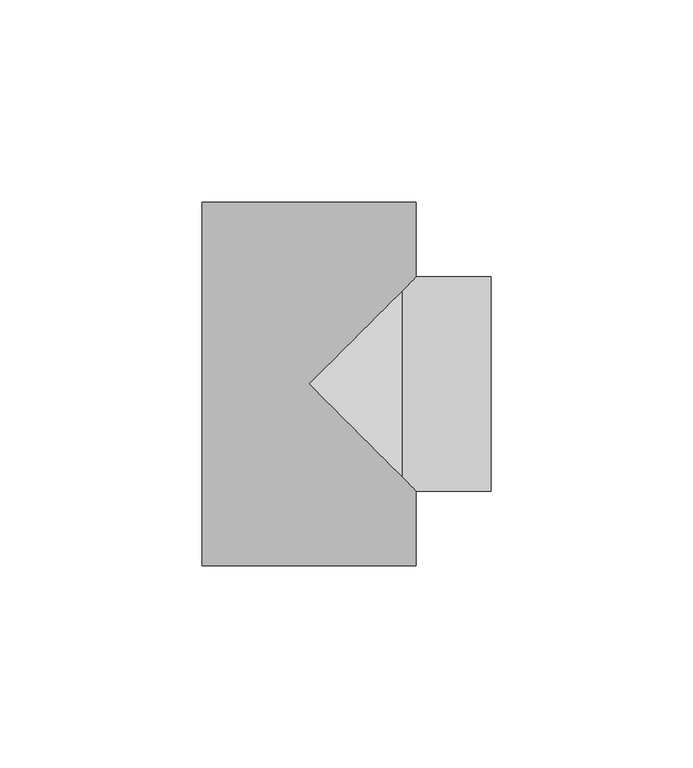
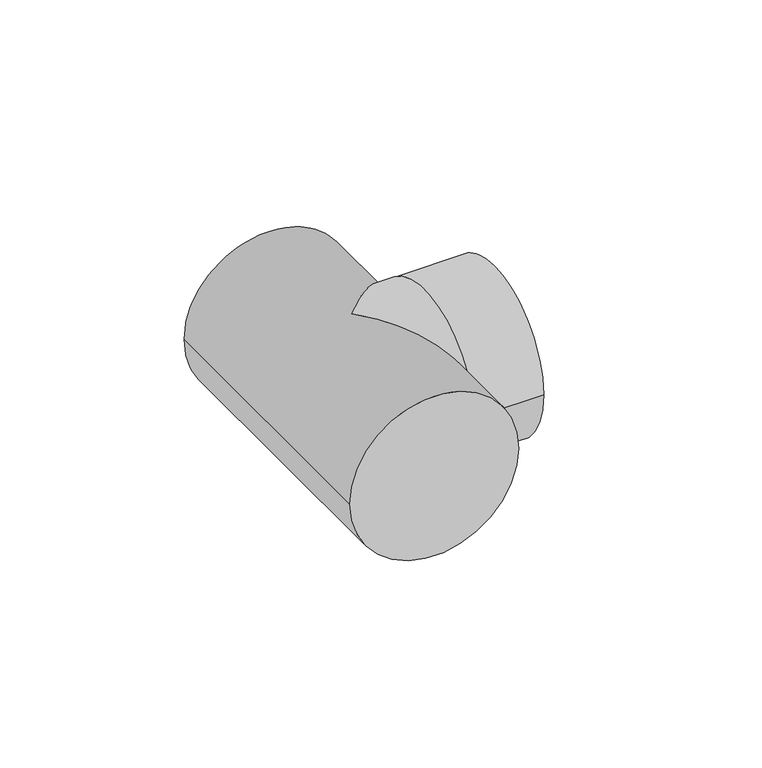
"""IFC4 building model written with IfcOpenShell, lengths in millimetres: pipe fitting geometry, 01101004 : Tés à 90º."""

import ifcopenshell
import ifcopenshell.guid

model = None  # the IFC model being written
_history = None  # IfcOwnerHistory: only IFC2X3 demands one
_inside = {}  # id of a spatial element -> (the spatial element, [elements in it])
_under = {}  # id of a project, library or spatial element -> (it, [spatial elements below it])
_declared = {}  # id of a project -> (the project, [libraries it declares])
_typed = {}  # id of a type object -> (the type object, [elements of that type])
_made_of = {}  # id of a material, layer set ... -> (it, [elements and type objects made of it])


def new_model(schema):
    """Start an empty IFC model of exactly this schema.

    Asked for "IFC4X3", IfcOpenShell would pick the latest addendum, in which some entities
    have other attributes; the version numbers below select the first issue.
    IFC2X3 requires an IfcOwnerHistory on every rooted entity: one is made here for all.
    """
    global model, _history
    if schema == "IFC4X3":
        model = ifcopenshell.file(schema_version=(4, 3, 0, 0))
    else:
        model = ifcopenshell.file(schema=schema)
    _inside.clear()
    _under.clear()
    _declared.clear()
    _typed.clear()
    _made_of.clear()
    _history = None
    if model.schema == "IFC2X3":
        org = make("IfcOrganization", Name="unknown")
        user = make(
            "IfcPersonAndOrganization",
            ThePerson=make("IfcPerson", FamilyName="unknown"),
            TheOrganization=org,
        )
        app = make(
            "IfcApplication",
            ApplicationDeveloper=org,
            Version="unknown",
            ApplicationFullName="unknown",
            ApplicationIdentifier="unknown",
        )
        _history = make(
            "IfcOwnerHistory",
            OwningUser=user,
            OwningApplication=app,
            ChangeAction="ADDED",
            CreationDate=0,
        )
    return model


def make(cls, **values):
    """One entity of the class cls with the attributes given. An attribute that is None is left unset."""
    return model.create_entity(
        cls, **{name: value for name, value in values.items() if value is not None}
    )


def rooted(cls, **values):
    """An entity with a GlobalId (a new one), such as an element, a storey or a relation."""
    return make(cls, GlobalId=ifcopenshell.guid.new(), OwnerHistory=_history, **values)


def si_unit(unit_type, name, prefix=None):
    """IfcSIUnit, for example si_unit("LENGTHUNIT", "METRE", prefix="MILLI")."""
    return make("IfcSIUnit", UnitType=unit_type, Prefix=prefix, Name=name)


def assignment(units):
    """IfcUnitAssignment: the units of a project."""
    return None if units is None else make("IfcUnitAssignment", Units=units)


def point(xyz):
    """IfcCartesianPoint."""
    return None if xyz is None else make("IfcCartesianPoint", Coordinates=xyz)


def direction(xyz):
    """IfcDirection."""
    return None if xyz is None else make("IfcDirection", DirectionRatios=xyz)


def frame(location, z_axis=None, x_axis=None):
    """IfcAxis2Placement3D, a coordinate frame: its origin and axes. An axis left out is left unset."""
    return make(
        "IfcAxis2Placement3D",
        Location=point(location),
        Axis=direction(z_axis),
        RefDirection=direction(x_axis),
    )


def origin():
    """The frame at (0, 0, 0) with its axes left unset."""
    return frame((0.0, 0.0, 0.0))


def place(relative_to, where):
    """IfcLocalPlacement: puts the frame where relative to a parent placement (None: the world)."""
    return make(
        "IfcLocalPlacement", PlacementRelTo=relative_to, RelativePlacement=where
    )


def context(
    kind, dimensions, precision=None, world=None, true_north=None, identifier=None
):
    """IfcGeometricRepresentationContext, for example the 3D "Model" context."""
    return make(
        "IfcGeometricRepresentationContext",
        ContextIdentifier=identifier,
        ContextType=kind,
        CoordinateSpaceDimension=dimensions,
        Precision=precision,
        WorldCoordinateSystem=world,
        TrueNorth=true_north,
    )


def project(units=None, contexts=None):
    """IfcProject with its units and contexts."""
    return rooted(
        "IfcProject",
        Name="project",
        RepresentationContexts=contexts,
        UnitsInContext=assignment(units),
    )


def spatial(cls, under=None, at=None, **own):
    """A site, building, storey or space (cls), placed at a placement, below another one or the project."""
    s = rooted(cls, ObjectPlacement=at, **own)
    if under is not None:
        _under.setdefault(under.id(), (under, []))[1].append(s)
    return s


def circle_curve(where, radius):
    """IfcCircle in the frame where."""
    return make("IfcCircle", Position=where, Radius=radius)


def ellipse_curve(where, semi_axis1, semi_axis2):
    """IfcEllipse in the frame where."""
    return make(
        "IfcEllipse", Position=where, SemiAxis1=semi_axis1, SemiAxis2=semi_axis2
    )


def shape(context_of_items, identifier, shape_type, items):
    """IfcShapeRepresentation: the items that make up one representation, for example the "Body"."""
    return make(
        "IfcShapeRepresentation",
        ContextOfItems=context_of_items,
        RepresentationIdentifier=identifier,
        RepresentationType=shape_type,
        Items=items,
    )


def source(mapping_origin, context_of_items, identifier, shape_type, items):
    """IfcRepresentationMap: a shape defined once, which mapped items show again and again."""
    return make(
        "IfcRepresentationMap",
        MappingOrigin=mapping_origin,
        MappedRepresentation=shape(context_of_items, identifier, shape_type, items),
    )


def transform(
    local_origin,
    x_axis=None,
    y_axis=None,
    z_axis=None,
    scale=None,
    scale2=None,
    scale3=None,
    uniform=True,
):
    """IfcCartesianTransformationOperator3D, or its non-uniform kind. x_axis, y_axis, z_axis: its Axis1, 2, 3."""
    if uniform:
        return make(
            "IfcCartesianTransformationOperator3D",
            Axis1=direction(x_axis),
            Axis2=direction(y_axis),
            LocalOrigin=point(local_origin),
            Scale=scale,
            Axis3=direction(z_axis),
        )
    return make(
        "IfcCartesianTransformationOperator3DnonUniform",
        Axis1=direction(x_axis),
        Axis2=direction(y_axis),
        LocalOrigin=point(local_origin),
        Scale=scale,
        Axis3=direction(z_axis),
        Scale2=scale2,
        Scale3=scale3,
    )


def mapped(mapping_source, mapping_target):
    """IfcMappedItem: shows the shape of a source again, moved by a transform."""
    return make(
        "IfcMappedItem", MappingSource=mapping_source, MappingTarget=mapping_target
    )


def made_of(thing, what):
    """Note that an element or type object is made of a material, layer set ...; save() writes the relation."""
    if what is not None:
        _made_of.setdefault(what.id(), (what, []))[1].append(thing)
    return thing


def element(
    cls,
    number,
    at=None,
    inside=None,
    cuts=None,
    type_object=None,
    material=None,
    context=None,
    identifier="Body",
    shape_type=None,
    held_by="IfcProductDefinitionShape",
    body=None,
    shapes=None,
    **own,
):
    """One element of the class cls, such as IfcWall. Its Tag is "e" and its number.

    at: its placement. inside: the storey or other place that contains it. cuts: it is an
    opening in that element (IfcRelVoidsElement). A single representation is given by context,
    identifier, shape_type and body (its items); several are given by shapes. held_by: the class
    of the entity that holds the representations. save() writes the other relations.
    """
    e = rooted(cls, Tag="e%d" % number, ObjectPlacement=at, **own)
    if body is not None:
        shapes = [shape(context, identifier, shape_type, body)]
    if shapes is not None:
        e.Representation = make(held_by, Representations=shapes)
    if inside is not None:
        _inside.setdefault(inside.id(), (inside, []))[1].append(e)
    if cuts is not None:
        rooted(
            "IfcRelVoidsElement", RelatingBuildingElement=cuts, RelatedOpeningElement=e
        )
    if type_object is not None:
        _typed.setdefault(type_object.id(), (type_object, []))[1].append(e)
    return made_of(e, material)


def aggregate(whole, parts):
    """IfcRelAggregates: a whole, such as a stair, and the parts it consists of."""
    return rooted("IfcRelAggregates", RelatingObject=whole, RelatedObjects=parts)


def save(model, path):
    """Write the relations noted so far, then the file.

    IfcRelAggregates (storeys below a building ...), IfcRelContainedInSpatialStructure (elements
    in a storey), IfcRelDefinesByType, IfcRelAssociatesMaterial and IfcRelDeclares: one each for
    every whole, place, type object, material and project.
    """
    for whole, parts in _under.values():
        aggregate(whole, parts)
    for where, things in _inside.values():
        rooted(
            "IfcRelContainedInSpatialStructure",
            RelatedElements=things,
            RelatingStructure=where,
        )
    for kind, things in _typed.values():
        rooted("IfcRelDefinesByType", RelatedObjects=things, RelatingType=kind)
    for what, things in _made_of.values():
        rooted("IfcRelAssociatesMaterial", RelatedObjects=things, RelatingMaterial=what)
    for by, libraries in _declared.values():
        rooted("IfcRelDeclares", RelatingContext=by, RelatedDefinitions=libraries)
    model.write(path)


def plane_surface(at):
    """IfcPlane: the flat surface through the origin of the frame at, square to its z axis."""
    return make("IfcPlane", Position=at)


def cylinder_surface(at, radius):
    """IfcCylindricalSurface: all points at the distance radius from the z axis of the frame at."""
    return make("IfcCylindricalSurface", Position=at, Radius=radius)


def advanced_brep(points, edges, surfaces, faces):
    """IfcAdvancedBrep: a solid bounded by faces that lie on surfaces and meet in shared edges.

    An edge is (start, end): straight between two places in points (the first is 0);
    or (start, end, curve); or (start, end, curve, False) where it runs against its curve.
    A face is (place in surfaces, loops), or (place, loops, False) where it looks against
    its surface's normal. A loop lists edges by number (the first is 1), with a minus sign
    where the edge is run from its end to its start. The first loop is the outer one.
    """
    corners = [point(p) for p in points]
    vertices = [make("IfcVertexPoint", VertexGeometry=c) for c in corners]
    made = []
    for start, end, *more in edges:
        made.append(
            make(
                "IfcEdgeCurve",
                EdgeStart=vertices[start],
                EdgeEnd=vertices[end],
                EdgeGeometry=more[0] if more else make("IfcPolyline", Points=[corners[start], corners[end]]),
                SameSense=more[1] if len(more) > 1 else True,
            )
        )
    hull = []
    for where, loops, *sense in faces:
        bounds = []
        for j, loop in enumerate(loops):
            ring = [make("IfcOrientedEdge", EdgeElement=made[abs(k) - 1], Orientation=k > 0) for k in loop]
            bounds.append(
                make(
                    "IfcFaceOuterBound" if j == 0 else "IfcFaceBound",
                    Bound=make("IfcEdgeLoop", EdgeList=ring),
                    Orientation=True,
                )
            )
        hull.append(make("IfcAdvancedFace", Bounds=bounds, FaceSurface=surfaces[where], SameSense=sense[0] if sense else True))
    return make("IfcAdvancedBrep", Outer=make("IfcClosedShell", CfsFaces=hull))


def pipe_fitting_daea20c9(model_context):
    return source(origin(), model_context, "Body", "AdvancedBrep", [
        advanced_brep(
        [(-26.5, 45.0, 0.0), (26.5, 45.0, 0.0), (-26.5, -45.0, 0.0), (26.5, -45.0, 0.0), (26.5, -26.5, 0.0), (23.0, -23.0, 13.1624466), (0.0, 0.0, 26.5), (23.0, 23.0, 13.1624466), (26.5, 26.5, 0.0), (23.0, 23.0, -13.1624466), (0.0, 0.0, -26.5), (23.0, -23.0, -13.1624466), (45.0, 26.5, 0.0), (45.0, -26.5, 0.0)],
        [
            (0, 1, circle_curve(frame((0.0, 45.0, 0.0), z_axis=(0.0, 1.0, 0.0), x_axis=(1.0, 0.0, 0.0)), 26.5)),
            (1, 0, circle_curve(frame((0.0, 45.0, 0.0), z_axis=(0.0, 1.0, 0.0), x_axis=(1.0, 0.0, 0.0)), 26.5)),
            (2, 3, circle_curve(frame((0.0, -45.0, 0.0), z_axis=(0.0, -1.0, 0.0), x_axis=(1.0, 0.0, 0.0)), 26.5)),
            (3, 2, circle_curve(frame((0.0, -45.0, 0.0), z_axis=(0.0, -1.0, 0.0), x_axis=(1.0, 0.0, 0.0)), 26.5)),
            (0, 2),
            (3, 4),
            (4, 5, ellipse_curve(frame((0.0, 0.0, 0.0), z_axis=(-0.7071067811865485, -0.7071067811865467, 0.0), x_axis=(-0.7071067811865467, 0.7071067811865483, 0.0)), 37.4766594, 26.5)),
            (5, 6, ellipse_curve(frame((0.0, 0.0, 0.0), z_axis=(-0.7071067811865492, -0.7071067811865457, 0.0), x_axis=(-0.7071067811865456, 0.7071067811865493, 0.0)), 37.4766594, 26.5)),
            (6, 7, ellipse_curve(frame((0.0, 0.0, 0.0), z_axis=(-0.7071067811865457, 0.7071067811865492, 0.0), x_axis=(0.7071067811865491, 0.7071067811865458, 0.0)), 37.4766594, 26.5)),
            (7, 8, ellipse_curve(frame((0.0, 0.0, 0.0), z_axis=(-0.7071067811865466, 0.7071067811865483, 0.0), x_axis=(0.7071067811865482, 0.7071067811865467, 0.0)), 37.4766594, 26.5)),
            (8, 1),
            (8, 9, ellipse_curve(frame((0.0, 0.0, 0.0), z_axis=(-0.7071067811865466, 0.7071067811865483, 0.0), x_axis=(0.7071067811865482, 0.7071067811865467, 0.0)), 37.4766594, 26.5)),
            (9, 10, ellipse_curve(frame((0.0, 0.0, 0.0), z_axis=(-0.7071067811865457, 0.7071067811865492, 0.0), x_axis=(0.7071067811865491, 0.7071067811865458, 0.0)), 37.4766594, 26.5)),
            (10, 11, ellipse_curve(frame((0.0, 0.0, 0.0), z_axis=(-0.7071067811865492, -0.7071067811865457, 0.0), x_axis=(-0.7071067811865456, 0.7071067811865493, 0.0)), 37.4766594, 26.5)),
            (11, 4, ellipse_curve(frame((0.0, 0.0, 0.0), z_axis=(-0.7071067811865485, -0.7071067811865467, 0.0), x_axis=(-0.7071067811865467, 0.7071067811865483, 0.0)), 37.4766594, 26.5)),
            (12, 13, circle_curve(frame((45.0, 0.0, 0.0), z_axis=(1.0, 0.0, 0.0), x_axis=(0.0, -1.0, 0.0)), 26.5)),
            (13, 12, circle_curve(frame((45.0, 0.0, 0.0), z_axis=(1.0, 0.0, 0.0), x_axis=(0.0, -1.0, 0.0)), 26.5)),
            (5, 7, circle_curve(frame((23.0, 0.0, 0.0), z_axis=(-1.0, 0.0, 0.0), x_axis=(0.0, -1.0, 0.0)), 26.5)),
            (9, 11, circle_curve(frame((23.0, 0.0, 0.0), z_axis=(-1.0, 0.0, 0.0), x_axis=(0.0, -1.0, 0.0)), 26.5)),
            (12, 8),
            (4, 13),
        ],
        [
            plane_surface(frame((0.0, 45.0, 0.0), z_axis=(0.0, 1.0, 0.0), x_axis=(0.0, 0.0, 1.0))),
            plane_surface(frame((0.0, -45.0, 0.0), z_axis=(0.0, -1.0, 0.0), x_axis=(0.0, 0.0, 1.0))),
            cylinder_surface(frame((0.0, 45.0, 0.0), z_axis=(0.0, 1.0, 0.0), x_axis=(1.0, 0.0, 0.0)), 26.5),
            plane_surface(frame((45.0, 0.0, 0.0), z_axis=(1.0, 0.0, 0.0), x_axis=(0.0, 0.0, 1.0))),
            cylinder_surface(frame((23.0, 0.0, 0.0), z_axis=(1.0, 0.0, 0.0), x_axis=(0.0, -1.0, 0.0)), 26.5),
            cylinder_surface(frame((45.0, 0.0, 0.0), z_axis=(1.0, 0.0, 0.0), x_axis=(0.0, -1.0, 0.0)), 26.5),
        ],
        [
            (0, [[1, 2]]),
            (1, [[3, 4]]),
            (2, [[-1, 5, -4, 6, 7, 8, 9, 10, 11]]),
            (2, [[-2, -11, 12, 13, 14, 15, -6, -3, -5]]),
            (3, [[16, 17]]),
            (4, [[18, -9, -8]]),
            (4, [[19, -14, -13]]),
            (5, [[-16, 20, -10, -18, -7, 21]]),
            (5, [[-17, -21, -15, -19, -12, -20]]),
        ],
    ),
    ])


if __name__ == "__main__":
    model = new_model("IFC4")
    model_context = context("Model", 3, world=origin())
    ifc_project = project(units=[si_unit("LENGTHUNIT", "METRE", prefix="MILLI")], contexts=[model_context])
    site = spatial("IfcSite", under=ifc_project)
    building = spatial("IfcBuilding", under=site)
    placement = place(None, origin())
    pipe_fitting_shape = pipe_fitting_daea20c9(model_context)
    element("IfcPipeFitting", 1, ObjectType="01101004 : Tés à 90º", at=placement, inside=building, context=model_context, shape_type="MappedRepresentation", body=[
        mapped(pipe_fitting_shape, transform((0.0, 0.0, 0.0), x_axis=(1.0, 0.0, 0.0), y_axis=(0.0, 1.0, 0.0), z_axis=(0.0, 0.0, 1.0))),
    ])
    save(model, "model.ifc")
